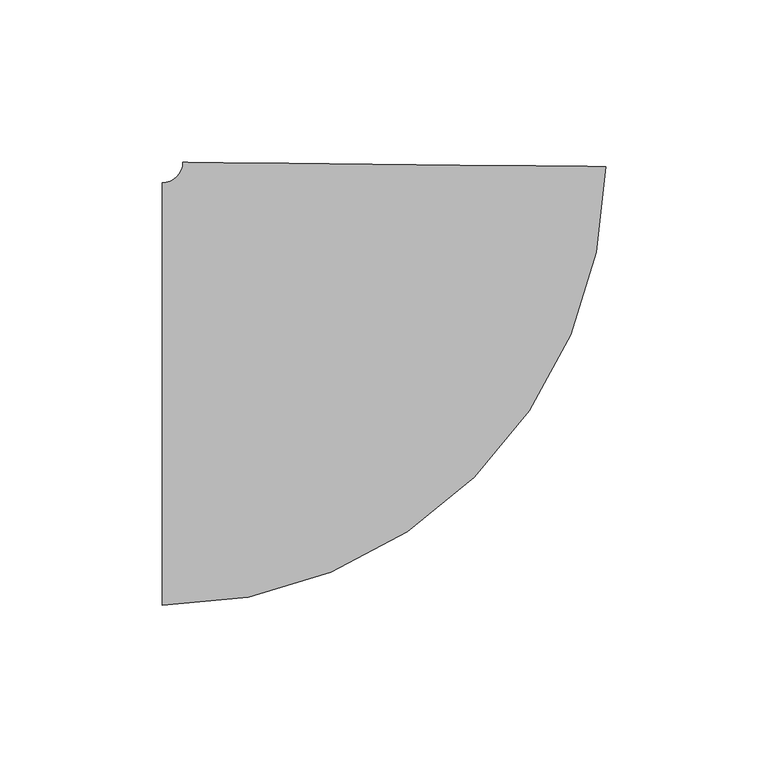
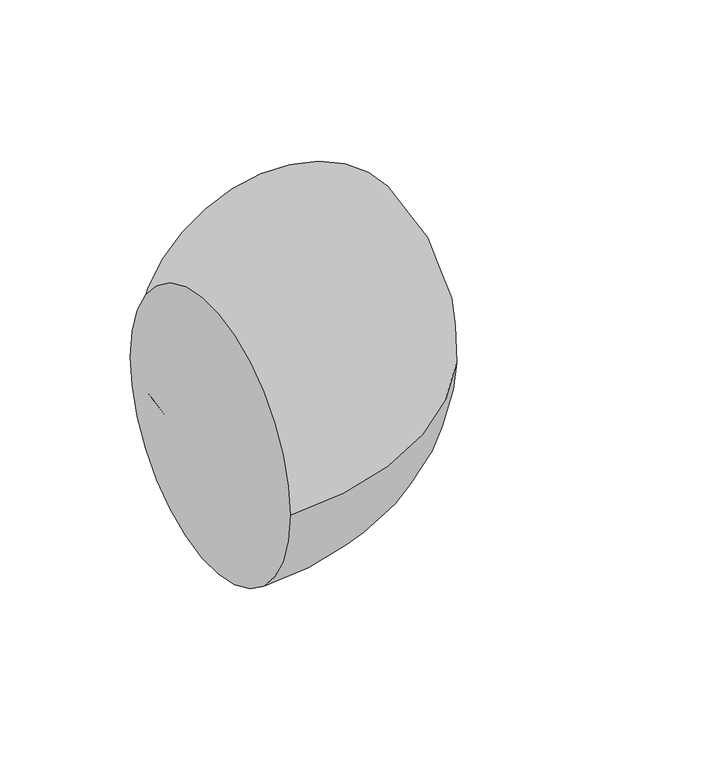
"""IFC4 building model written with IfcOpenShell, lengths in millimetres: pipe fitting geometry, M_Codo - Genérico : Estándar."""

from ifc_helpers import new_model, si_unit, point, frame, origin, place, context, project, spatial, circle_curve, ellipse_curve, trimmed, source, transform, mapped, element, save
from ifc_brep_helpers import plane_surface, revolved_surface, advanced_brep


def pipe_fitting_78596532(model_context):
    return source(origin(), model_context, "Body", "AdvancedBrep", [
        advanced_brep(
        [(-70.7279213, -65.0875, 0.0), (-70.7279213, 65.0875, 0.0), (65.7902765, 70.0746818, 0.0), (-64.3782377, 71.3741131, 0.0)],
        [
            (0, 1, circle_curve(frame((-70.7279213, 0.0, 0.0), z_axis=(-1.0, 0.0, 0.0), x_axis=(0.0, 1.0, 0.0)), 65.0875)),
            (1, 0, circle_curve(frame((-70.7279213, 0.0, 0.0), z_axis=(-1.0, 0.0, 0.0), x_axis=(0.0, 1.0, 0.0)), 65.0875)),
            (2, 3, circle_curve(frame((0.7060194, 70.7243974, 0.0), z_axis=(0.00998218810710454, 0.9999501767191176, 0.0), x_axis=(-0.9999501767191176, 0.00998218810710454, 0.0)), 65.0875)),
            (3, 2, circle_curve(frame((0.7060194, 70.7243974, 0.0), z_axis=(0.00998218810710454, 0.9999501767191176, 0.0), x_axis=(-0.9999501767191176, 0.00998218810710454, 0.0)), 65.0875)),
            (3, 1, circle_curve(frame((-70.7279213, 71.4375, 0.0), z_axis=(0.0, 0.0, -1.0), x_axis=(0.0, -1.0, 0.0)), 6.35)),
            (0, 2, circle_curve(frame((-70.7279213, 71.4375, 0.0), z_axis=(0.0, 0.0, 1.0), x_axis=(0.0, -1.0, 0.0)), 136.525)),
        ],
        [
            plane_surface(frame((-70.7279213, 0.0, 0.0), z_axis=(-1.0, 0.0, 0.0), x_axis=(0.0, 0.0, 1.0))),
            plane_surface(frame((0.7060194, 70.7243974, 0.0), z_axis=(0.00998218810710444, 0.9999501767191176, 0.0), x_axis=(0.0, 0.0, 1.0))),
            revolved_surface(trimmed(ellipse_curve(frame((-70.7279213, 0.0, 0.0), z_axis=(-1.0, 0.0, 0.0), x_axis=(0.0, 1.0, 0.0)), 65.0875, 65.0875), [point((-70.7279213, -65.0875, 0.0))], [point((-70.7279213, 65.0875, 0.0))], True, "CARTESIAN"), (-70.7279213, 71.4375, 0.0), (0.0, 0.0, 1.0)),
            revolved_surface(trimmed(ellipse_curve(frame((-70.7279213, 0.0, 0.0), z_axis=(-1.0, 0.0, 0.0), x_axis=(0.0, 1.0, 0.0)), 65.0875, 65.0875), [point((-70.7279213, 65.0875, 0.0))], [point((-70.7279213, -65.0875, 0.0))], True, "CARTESIAN"), (-70.7279213, 71.4375, 0.0), (0.0, 0.0, 1.0)),
        ],
        [
            (0, [[1, 2]]),
            (1, [[3, 4]]),
            (2, [[5, -1, 6, -4]]),
            (3, [[-6, -2, -5, -3]]),
        ],
    ),
    ])


if __name__ == "__main__":
    model = new_model("IFC4")
    model_context = context("Model", 3, world=origin())
    ifc_project = project(units=[si_unit("LENGTHUNIT", "METRE", prefix="MILLI")], contexts=[model_context])
    site = spatial("IfcSite", under=ifc_project)
    building = spatial("IfcBuilding", under=site)
    placement = place(None, origin())
    pipe_fitting_shape = pipe_fitting_78596532(model_context)
    element("IfcPipeFitting", 1, ObjectType="M_Codo - Genérico : Estándar", at=placement, inside=building, context=model_context, shape_type="MappedRepresentation", body=[
        mapped(pipe_fitting_shape, transform((0.0, 0.0, 0.0), x_axis=(1.0, 0.0, 0.0), y_axis=(0.0, 1.0, 0.0), z_axis=(0.0, 0.0, 1.0))),
    ])
    save(model, "model.ifc")
